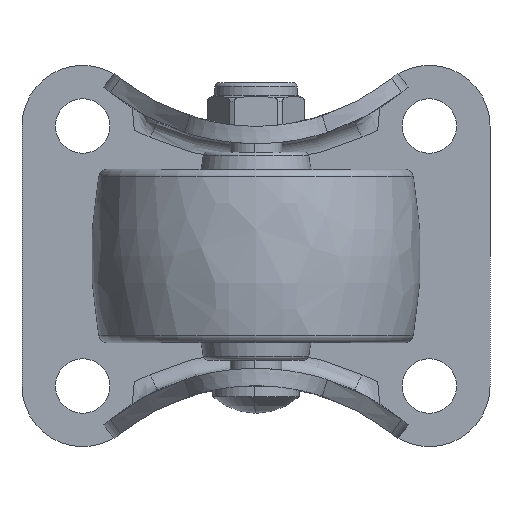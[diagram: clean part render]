
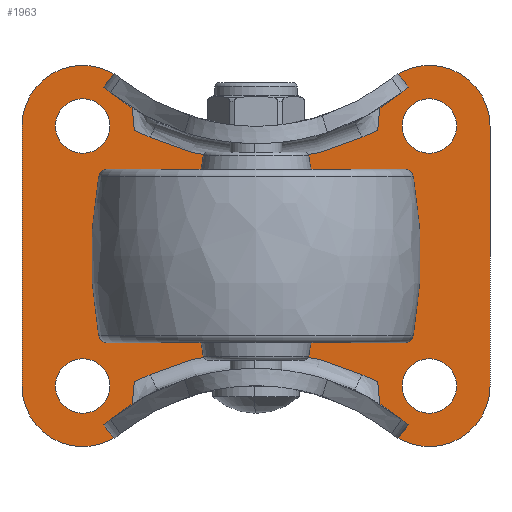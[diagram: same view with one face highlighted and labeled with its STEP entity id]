
A CAD part, front view. The second image highlights one B-rep face of the part: STEP entity #1963.
In plain terms, the highlighted planar face has unit normal (0, -1, 0).
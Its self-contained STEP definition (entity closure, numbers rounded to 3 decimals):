
#207=CARTESIAN_POINT('',(0.,-2.,39.98));
#208=DIRECTION('',(0.,1.,0.));
#209=DIRECTION('',(0.421,0.,-0.907));
#210=AXIS2_PLACEMENT_3D('',#207,#208,#209);
#316=CARTESIAN_POINT('',(-20.,-2.,-15.));
#317=DIRECTION('',(0.,-1.,0.));
#318=DIRECTION('',(1.,0.,0.));
#319=AXIS2_PLACEMENT_3D('',#316,#317,#318);
#321=CARTESIAN_POINT('',(-20.,-2.,-15.));
#322=DIRECTION('',(0.,-1.,0.));
#323=DIRECTION('',(-1.,0.,0.));
#324=AXIS2_PLACEMENT_3D('',#321,#322,#323);
#326=CARTESIAN_POINT('',(20.,-2.,-15.));
#327=DIRECTION('',(0.,-1.,0.));
#328=DIRECTION('',(1.,0.,0.));
#329=AXIS2_PLACEMENT_3D('',#326,#327,#328);
#331=CARTESIAN_POINT('',(20.,-2.,-15.));
#332=DIRECTION('',(0.,-1.,0.));
#333=DIRECTION('',(-1.,0.,0.));
#334=AXIS2_PLACEMENT_3D('',#331,#332,#333);
#336=CARTESIAN_POINT('',(20.,-2.,15.));
#337=DIRECTION('',(0.,-1.,0.));
#338=DIRECTION('',(1.,0.,0.));
#339=AXIS2_PLACEMENT_3D('',#336,#337,#338);
#341=CARTESIAN_POINT('',(20.,-2.,15.));
#342=DIRECTION('',(0.,-1.,0.));
#343=DIRECTION('',(-1.,0.,0.));
#344=AXIS2_PLACEMENT_3D('',#341,#342,#343);
#346=CARTESIAN_POINT('',(-20.,-2.,15.));
#347=DIRECTION('',(0.,-1.,0.));
#348=DIRECTION('',(1.,0.,0.));
#349=AXIS2_PLACEMENT_3D('',#346,#347,#348);
#351=CARTESIAN_POINT('',(-20.,-2.,15.));
#352=DIRECTION('',(0.,-1.,0.));
#353=DIRECTION('',(-1.,0.,0.));
#354=AXIS2_PLACEMENT_3D('',#351,#352,#353);
#356=DIRECTION('',(0.907,0.,-0.42));
#357=VECTOR('',#356,2.);
#358=CARTESIAN_POINT('',(12.223,-2.,-13.682));
#359=LINE('',#358,#357);
#360=DIRECTION('',(-0.907,0.,-0.42));
#361=VECTOR('',#360,2.);
#362=CARTESIAN_POINT('',(-12.223,-2.,-13.682));
#363=LINE('',#362,#361);
#364=DIRECTION('',(0.09,0.,0.996));
#365=VECTOR('',#364,5.11);
#366=CARTESIAN_POINT('',(-14.496,-2.,-19.611));
#367=LINE('',#366,#365);
#368=CARTESIAN_POINT('',(0.,-2.,-39.98));
#369=DIRECTION('',(0.,-1.,0.));
#370=DIRECTION('',(-0.58,0.,0.815));
#371=AXIS2_PLACEMENT_3D('',#368,#369,#370);
#373=CARTESIAN_POINT('',(-20.,-2.,-15.));
#374=DIRECTION('',(0.,1.,0.));
#375=DIRECTION('',(0.625,0.,-0.781));
#376=AXIS2_PLACEMENT_3D('',#373,#374,#375);
#378=DIRECTION('',(0.,0.,1.));
#379=VECTOR('',#378,30.);
#380=CARTESIAN_POINT('',(-27.,-2.,-15.));
#381=LINE('',#380,#379);
#382=CARTESIAN_POINT('',(-20.,-2.,15.));
#383=DIRECTION('',(0.,1.,0.));
#384=DIRECTION('',(-1.,0.,0.));
#385=AXIS2_PLACEMENT_3D('',#382,#383,#384);
#387=CARTESIAN_POINT('',(0.,-2.,39.98));
#388=DIRECTION('',(0.,-1.,0.));
#389=DIRECTION('',(-0.625,0.,-0.781));
#390=AXIS2_PLACEMENT_3D('',#387,#388,#389);
#392=DIRECTION('',(0.09,0.,-0.996));
#393=VECTOR('',#392,5.11);
#394=CARTESIAN_POINT('',(-14.497,-2.,19.612));
#395=LINE('',#394,#393);
#396=DIRECTION('',(-0.907,0.,0.42));
#397=VECTOR('',#396,2.);
#398=CARTESIAN_POINT('',(-12.223,-2.,13.682));
#399=LINE('',#398,#397);
#400=DIRECTION('',(0.907,0.,0.42));
#401=VECTOR('',#400,2.);
#402=CARTESIAN_POINT('',(12.223,-2.,13.682));
#403=LINE('',#402,#401);
#404=DIRECTION('',(-0.09,0.,-0.996));
#405=VECTOR('',#404,5.11);
#406=CARTESIAN_POINT('',(14.496,-2.,19.611));
#407=LINE('',#406,#405);
#408=CARTESIAN_POINT('',(0.,-2.,39.98));
#409=DIRECTION('',(0.,-1.,0.));
#410=DIRECTION('',(0.58,0.,-0.815));
#411=AXIS2_PLACEMENT_3D('',#408,#409,#410);
#413=CARTESIAN_POINT('',(20.,-2.,15.));
#414=DIRECTION('',(0.,1.,0.));
#415=DIRECTION('',(-0.625,0.,0.781));
#416=AXIS2_PLACEMENT_3D('',#413,#414,#415);
#418=DIRECTION('',(0.,0.,-1.));
#419=VECTOR('',#418,30.);
#420=CARTESIAN_POINT('',(27.,-2.,15.));
#421=LINE('',#420,#419);
#422=CARTESIAN_POINT('',(20.,-2.,-15.));
#423=DIRECTION('',(0.,1.,0.));
#424=DIRECTION('',(1.,0.,0.));
#425=AXIS2_PLACEMENT_3D('',#422,#423,#424);
#427=CARTESIAN_POINT('',(0.,-2.,-39.98));
#428=DIRECTION('',(0.,-1.,0.));
#429=DIRECTION('',(0.625,0.,0.781));
#430=AXIS2_PLACEMENT_3D('',#427,#428,#429);
#432=DIRECTION('',(-0.09,0.,0.996));
#433=VECTOR('',#432,5.11);
#434=CARTESIAN_POINT('',(14.497,-2.,-19.612));
#435=LINE('',#434,#433);
#987=CARTESIAN_POINT('',(0.,-2.,-39.98));
#988=DIRECTION('',(0.,1.,0.));
#989=DIRECTION('',(-0.421,0.,0.907));
#990=AXIS2_PLACEMENT_3D('',#987,#988,#989);
#1065=CARTESIAN_POINT('',(-16.85,-2.,-15.));
#1066=CARTESIAN_POINT('',(-23.15,-2.,-15.));
#1067=VERTEX_POINT('',#1065);
#1068=VERTEX_POINT('',#1066);
#1069=CARTESIAN_POINT('',(23.15,-2.,-15.));
#1070=CARTESIAN_POINT('',(16.85,-2.,-15.));
#1071=VERTEX_POINT('',#1069);
#1072=VERTEX_POINT('',#1070);
#1073=CARTESIAN_POINT('',(23.15,-2.,15.));
#1074=CARTESIAN_POINT('',(16.85,-2.,15.));
#1075=VERTEX_POINT('',#1073);
#1076=VERTEX_POINT('',#1074);
#1077=CARTESIAN_POINT('',(-16.85,-2.,15.));
#1078=CARTESIAN_POINT('',(-23.15,-2.,15.));
#1079=VERTEX_POINT('',#1077);
#1080=VERTEX_POINT('',#1078);
#1081=CARTESIAN_POINT('',(27.,-2.,-15.));
#1082=CARTESIAN_POINT('',(15.625,-2.,-20.464));
#1083=VERTEX_POINT('',#1081);
#1084=VERTEX_POINT('',#1082);
#1085=CARTESIAN_POINT('',(-15.625,-2.,-20.464));
#1086=CARTESIAN_POINT('',(-27.,-2.,-15.));
#1087=VERTEX_POINT('',#1085);
#1088=VERTEX_POINT('',#1086);
#1089=CARTESIAN_POINT('',(-27.,-2.,15.));
#1090=VERTEX_POINT('',#1089);
#1091=CARTESIAN_POINT('',(-15.625,-2.,20.464));
#1092=VERTEX_POINT('',#1091);
#1093=CARTESIAN_POINT('',(15.625,-2.,20.464));
#1094=CARTESIAN_POINT('',(27.,-2.,15.));
#1095=VERTEX_POINT('',#1093);
#1096=VERTEX_POINT('',#1094);
#1119=CARTESIAN_POINT('',(12.223,-2.,13.682));
#1120=CARTESIAN_POINT('',(14.037,-2.,14.522));
#1121=VERTEX_POINT('',#1119);
#1122=VERTEX_POINT('',#1120);
#1123=CARTESIAN_POINT('',(14.496,-2.,19.611));
#1124=VERTEX_POINT('',#1123);
#1131=CARTESIAN_POINT('',(-12.223,-2.,13.682));
#1132=CARTESIAN_POINT('',(-14.038,-2.,14.523));
#1133=VERTEX_POINT('',#1131);
#1134=VERTEX_POINT('',#1132);
#1135=CARTESIAN_POINT('',(-14.497,-2.,19.612));
#1136=VERTEX_POINT('',#1135);
#1159=CARTESIAN_POINT('',(-12.223,-2.,-13.682));
#1160=CARTESIAN_POINT('',(-14.037,-2.,-14.522));
#1161=VERTEX_POINT('',#1159);
#1162=VERTEX_POINT('',#1160);
#1163=CARTESIAN_POINT('',(-14.496,-2.,-19.611));
#1164=VERTEX_POINT('',#1163);
#1171=CARTESIAN_POINT('',(12.223,-2.,-13.682));
#1172=CARTESIAN_POINT('',(14.038,-2.,-14.523));
#1173=VERTEX_POINT('',#1171);
#1174=VERTEX_POINT('',#1172);
#1175=CARTESIAN_POINT('',(14.497,-2.,-19.612));
#1176=VERTEX_POINT('',#1175);
#1895=CARTESIAN_POINT('',(0.,-2.,0.));
#1896=DIRECTION('',(0.,1.,0.));
#1897=DIRECTION('',(1.,0.,0.));
#1898=AXIS2_PLACEMENT_3D('',#1895,#1896,#1897);
#1899=PLANE('',#1898);
#1901=ORIENTED_EDGE('',*,*,#1900,.F.);
#1903=ORIENTED_EDGE('',*,*,#1902,.F.);
#1905=ORIENTED_EDGE('',*,*,#1904,.T.);
#1907=ORIENTED_EDGE('',*,*,#1906,.F.);
#1909=ORIENTED_EDGE('',*,*,#1908,.T.);
#1911=ORIENTED_EDGE('',*,*,#1910,.T.);
#1913=ORIENTED_EDGE('',*,*,#1912,.T.);
#1915=ORIENTED_EDGE('',*,*,#1914,.T.);
#1917=ORIENTED_EDGE('',*,*,#1916,.T.);
#1918=ORIENTED_EDGE('',*,*,#1889,.T.);
#1919=ORIENTED_EDGE('',*,*,#1887,.F.);
#1920=ORIENTED_EDGE('',*,*,#1484,.F.);
#1922=ORIENTED_EDGE('',*,*,#1921,.T.);
#1924=ORIENTED_EDGE('',*,*,#1923,.F.);
#1926=ORIENTED_EDGE('',*,*,#1925,.T.);
#1928=ORIENTED_EDGE('',*,*,#1927,.T.);
#1930=ORIENTED_EDGE('',*,*,#1929,.T.);
#1932=ORIENTED_EDGE('',*,*,#1931,.T.);
#1934=ORIENTED_EDGE('',*,*,#1933,.T.);
#1936=ORIENTED_EDGE('',*,*,#1935,.T.);
#1937=EDGE_LOOP('',(#1901,#1903,#1905,#1907,#1909,#1911,#1913,#1915,#1917,#1918,
#1919,#1920,#1922,#1924,#1926,#1928,#1930,#1932,#1934,#1936));
#1938=FACE_OUTER_BOUND('',#1937,.F.);
#1940=ORIENTED_EDGE('',*,*,#1939,.T.);
#1942=ORIENTED_EDGE('',*,*,#1941,.T.);
#1943=EDGE_LOOP('',(#1940,#1942));
#1944=FACE_BOUND('',#1943,.F.);
#1946=ORIENTED_EDGE('',*,*,#1945,.T.);
#1948=ORIENTED_EDGE('',*,*,#1947,.T.);
#1949=EDGE_LOOP('',(#1946,#1948));
#1950=FACE_BOUND('',#1949,.F.);
#1952=ORIENTED_EDGE('',*,*,#1951,.T.);
#1954=ORIENTED_EDGE('',*,*,#1953,.T.);
#1955=EDGE_LOOP('',(#1952,#1954));
#1956=FACE_BOUND('',#1955,.F.);
#1958=ORIENTED_EDGE('',*,*,#1957,.T.);
#1960=ORIENTED_EDGE('',*,*,#1959,.T.);
#1961=EDGE_LOOP('',(#1958,#1960));
#1962=FACE_BOUND('',#1961,.F.);
#211=CIRCLE('',#210,29.);
#320=CIRCLE('',#319,3.15);
#325=CIRCLE('',#324,3.15);
#330=CIRCLE('',#329,3.15);
#335=CIRCLE('',#334,3.15);
#340=CIRCLE('',#339,3.15);
#345=CIRCLE('',#344,3.15);
#350=CIRCLE('',#349,3.15);
#355=CIRCLE('',#354,3.15);
#372=CIRCLE('',#371,25.);
#377=CIRCLE('',#376,7.);
#386=CIRCLE('',#385,7.);
#391=CIRCLE('',#390,25.);
#412=CIRCLE('',#411,25.);
#417=CIRCLE('',#416,7.);
#426=CIRCLE('',#425,7.);
#431=CIRCLE('',#430,25.);
#991=CIRCLE('',#990,29.);
#1484=EDGE_CURVE('',#1121,#1133,#211,.T.);
#1887=EDGE_CURVE('',#1133,#1134,#399,.T.);
#1889=EDGE_CURVE('',#1136,#1134,#395,.T.);
#1900=EDGE_CURVE('',#1173,#1174,#359,.T.);
#1902=EDGE_CURVE('',#1161,#1173,#991,.T.);
#1904=EDGE_CURVE('',#1161,#1162,#363,.T.);
#1906=EDGE_CURVE('',#1164,#1162,#367,.T.);
#1908=EDGE_CURVE('',#1164,#1087,#372,.T.);
#1910=EDGE_CURVE('',#1087,#1088,#377,.T.);
#1912=EDGE_CURVE('',#1088,#1090,#381,.T.);
#1914=EDGE_CURVE('',#1090,#1092,#386,.T.);
#1916=EDGE_CURVE('',#1092,#1136,#391,.T.);
#1921=EDGE_CURVE('',#1121,#1122,#403,.T.);
#1923=EDGE_CURVE('',#1124,#1122,#407,.T.);
#1925=EDGE_CURVE('',#1124,#1095,#412,.T.);
#1927=EDGE_CURVE('',#1095,#1096,#417,.T.);
#1929=EDGE_CURVE('',#1096,#1083,#421,.T.);
#1931=EDGE_CURVE('',#1083,#1084,#426,.T.);
#1933=EDGE_CURVE('',#1084,#1176,#431,.T.);
#1935=EDGE_CURVE('',#1176,#1174,#435,.T.);
#1939=EDGE_CURVE('',#1071,#1072,#330,.T.);
#1941=EDGE_CURVE('',#1072,#1071,#335,.T.);
#1945=EDGE_CURVE('',#1075,#1076,#340,.T.);
#1947=EDGE_CURVE('',#1076,#1075,#345,.T.);
#1951=EDGE_CURVE('',#1079,#1080,#350,.T.);
#1953=EDGE_CURVE('',#1080,#1079,#355,.T.);
#1957=EDGE_CURVE('',#1067,#1068,#320,.T.);
#1959=EDGE_CURVE('',#1068,#1067,#325,.T.);
#1963=ADVANCED_FACE('',(#1938,#1944,#1950,#1956,#1962),#1899,.F.);
